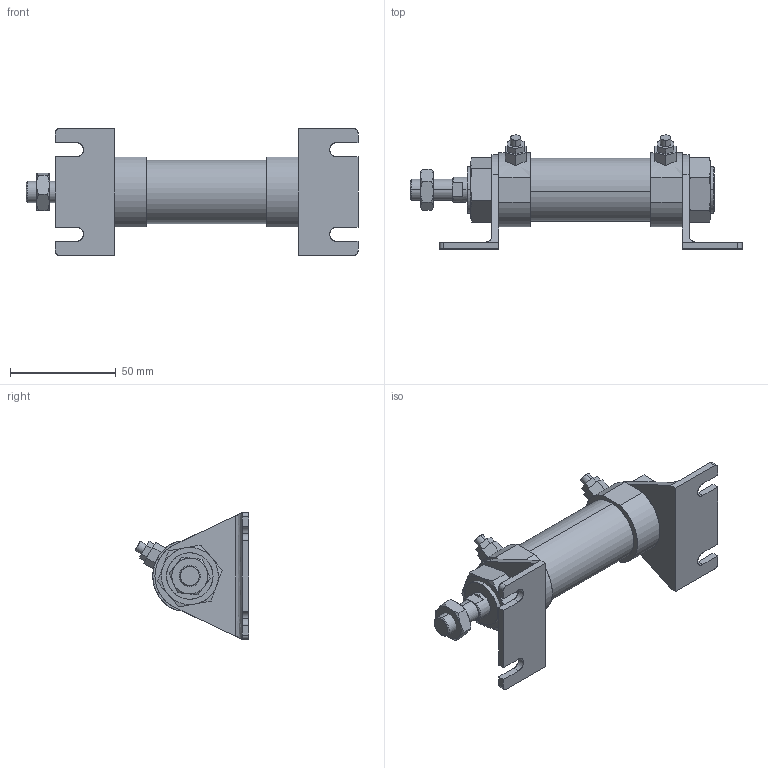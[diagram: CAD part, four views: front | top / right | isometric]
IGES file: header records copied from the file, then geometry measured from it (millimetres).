
Start section: SolidWorks IGES file using analytic representation for surfaces
Global section: file name: C:\Users\Toshiba\Desktop\JG2-25-25-L.IGS; native system: SolidWorks 2014; preprocessor: SolidWorks 2014; author: Toshiba; date: 160419.084810; units: millimetre
Bounding box: 157.2 x 53.93 x 60 mm (x, y, z)
Surface area: 36247.1 mm2 (no closed solid volume)
Topology: 0 solids, 0 shells, 211 faces, 3244 edges, 3240 vertices
Faces by surface type: bspline 143, revolution 68
